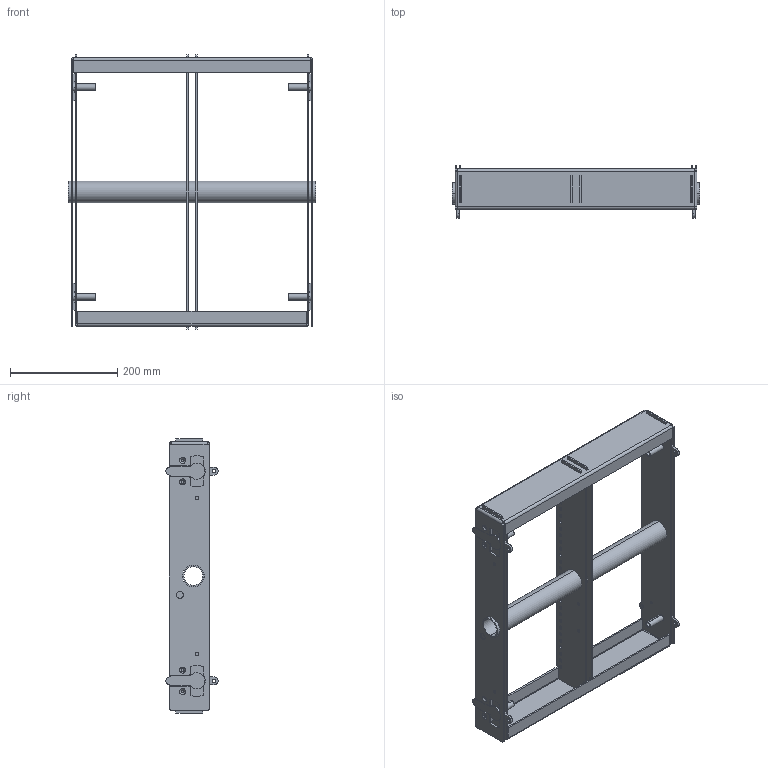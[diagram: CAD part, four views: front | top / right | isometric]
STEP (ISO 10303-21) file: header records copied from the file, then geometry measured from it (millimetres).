
FILE_DESCRIPTION (( 'STEP AP203' ), '1' );
FILE_NAME ('SEEBURG_Galeo-S_Full-Frame.STEP', '2016-02-25T09:28:35', ( 'Michael Anter' ), ( 'SEEBURG acoustic line GmbH' ), 'SwSTEP 2.0', 'SolidWorks 2009', '' );
FILE_SCHEMA (( 'CONFIG_CONTROL_DESIGN' ));
Length unit declared in the file: millimetre
Products named in the file (1): SEEBURG_Galeo-S_Full-Frame
Bounding box: 460 x 97 x 510 mm (x, y, z)
Volume: 1145773.4 mm3; surface area: 823135.3 mm2
Topology: 17 solids, 17 shells, 738 faces, 1956 edges, 1268 vertices
Faces by surface type: cylinder 404, plane 302, cone 32
Entity records: 23589 total; most frequent: DIRECTION 4258, CARTESIAN_POINT 3955, ORIENTED_EDGE 3896, EDGE_CURVE 1948, AXIS2_PLACEMENT_3D 1571, VERTEX_POINT 1268, LINE 1116, VECTOR 1116
